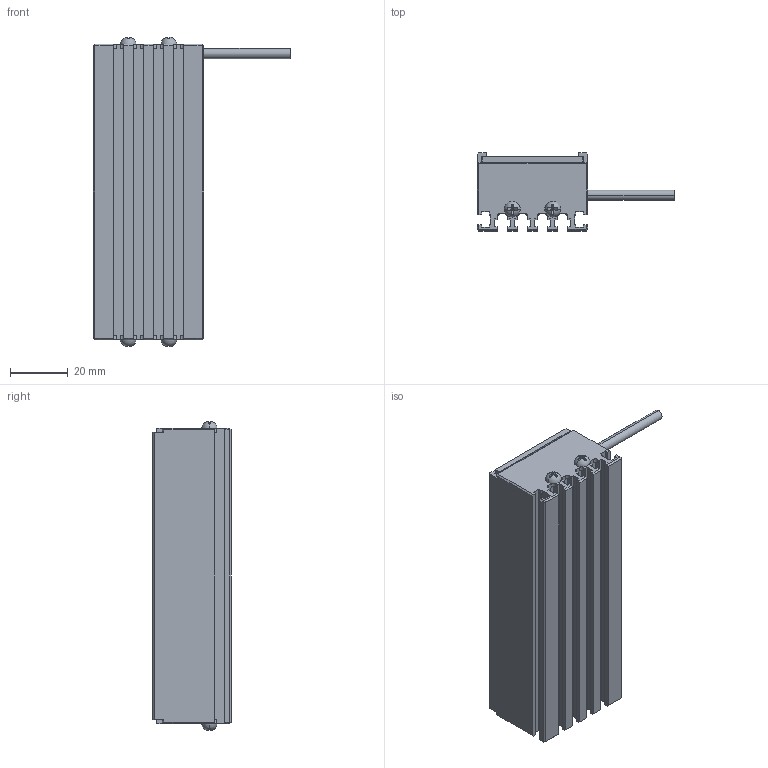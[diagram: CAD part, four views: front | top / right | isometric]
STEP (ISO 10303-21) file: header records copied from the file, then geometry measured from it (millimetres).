
FILE_DESCRIPTION((''),'2;1');
FILE_NAME('MV-LLDS-102-38_ASM','2020-12-29T',('Administrator'),(''),'PRO/ENGINEER BY PARAMETRIC TECHNOLOGY CORPORATION, 2010100','PRO/ENGINEER BY PARAMETRIC TECHNOLOGY CORPORATION, 2010100','');
FILE_SCHEMA(('CONFIG_CONTROL_DESIGN'));
Length unit declared in the file: millimetre
Products named in the file (3): BL-6_5_; M3-5_3; MV-LLDS-102-38_ASM
Assembly tree (5 placements, depth 2):
  MV-LLDS-102-38_ASM
    BL-6_5_
    M3-5_3  x4
Bounding box: 68 x 27 x 106.68 mm (x, y, z)
Volume: 85566.8 mm3; surface area: 27127.8 mm2
Topology: 5 solids, 13 shells, 349 faces, 934 edges, 604 vertices
Faces by surface type: plane 223, cylinder 78, cone 16, bspline 16, torus 8, sphere 8
Entity records: 8227 total; most frequent: CARTESIAN_POINT 1719, ORIENTED_EDGE 1338, DIRECTION 1310, EDGE_CURVE 679, VECTOR 514, LINE 514, VERTEX_POINT 445, AXIS2_PLACEMENT_3D 398
